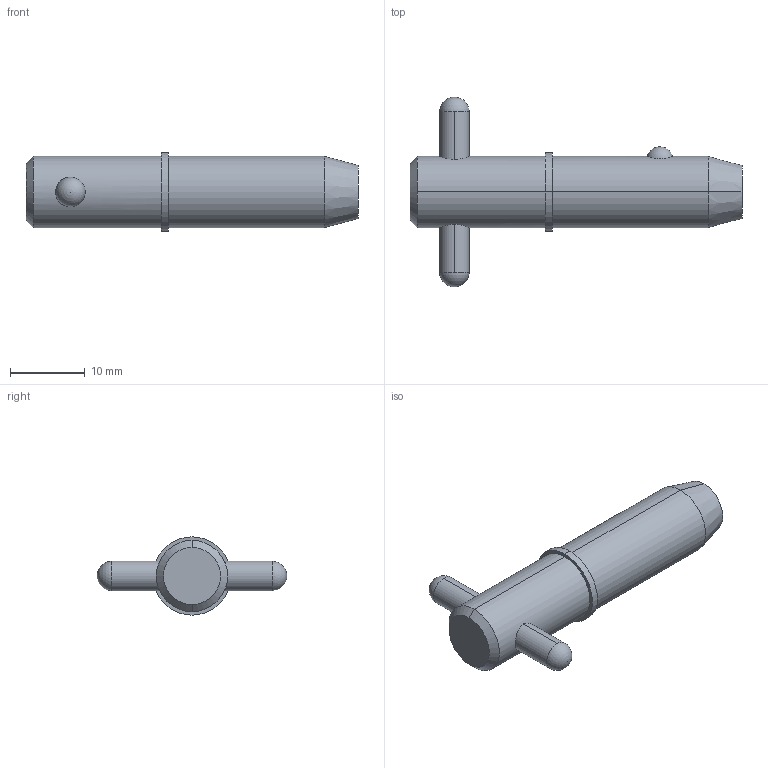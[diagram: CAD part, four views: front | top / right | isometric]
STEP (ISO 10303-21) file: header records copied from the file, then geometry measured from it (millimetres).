
FILE_DESCRIPTION (( 'STEP AP203' ), '1' );
FILE_NAME ('33018.W3705.step', '2024-11-19T17:10:31', ( '' ), ( '' ), 'SwSTEP 2.0', 'SolidWorks 2019', '' );
FILE_SCHEMA (( 'CONFIG_CONTROL_DESIGN' ));
Length unit declared in the file: millimetre
Products named in the file (3): Part2_33018.W3705; 33018.W3705; Part1_33018.W3705
Assembly tree (2 placements, depth 2):
  33018.W3705
    Part1_33018.W3705
    Part2_33018.W3705
Bounding box: 44.45 x 25.4 x 10.48 mm (x, y, z)
Volume: 3289.1 mm3; surface area: 1855.2 mm2
Topology: 2 solids, 2 shells, 22 faces, 47 edges, 30 vertices
Faces by surface type: cylinder 10, sphere 4, cone 4, plane 4
Entity records: 1023 total; most frequent: CARTESIAN_POINT 266, DIRECTION 110, ORIENTED_EDGE 82, AXIS2_PLACEMENT_3D 48, EDGE_CURVE 41, EDGE_LOOP 27, PERSON_AND_ORGANIZATION 26, VERTEX_POINT 26
